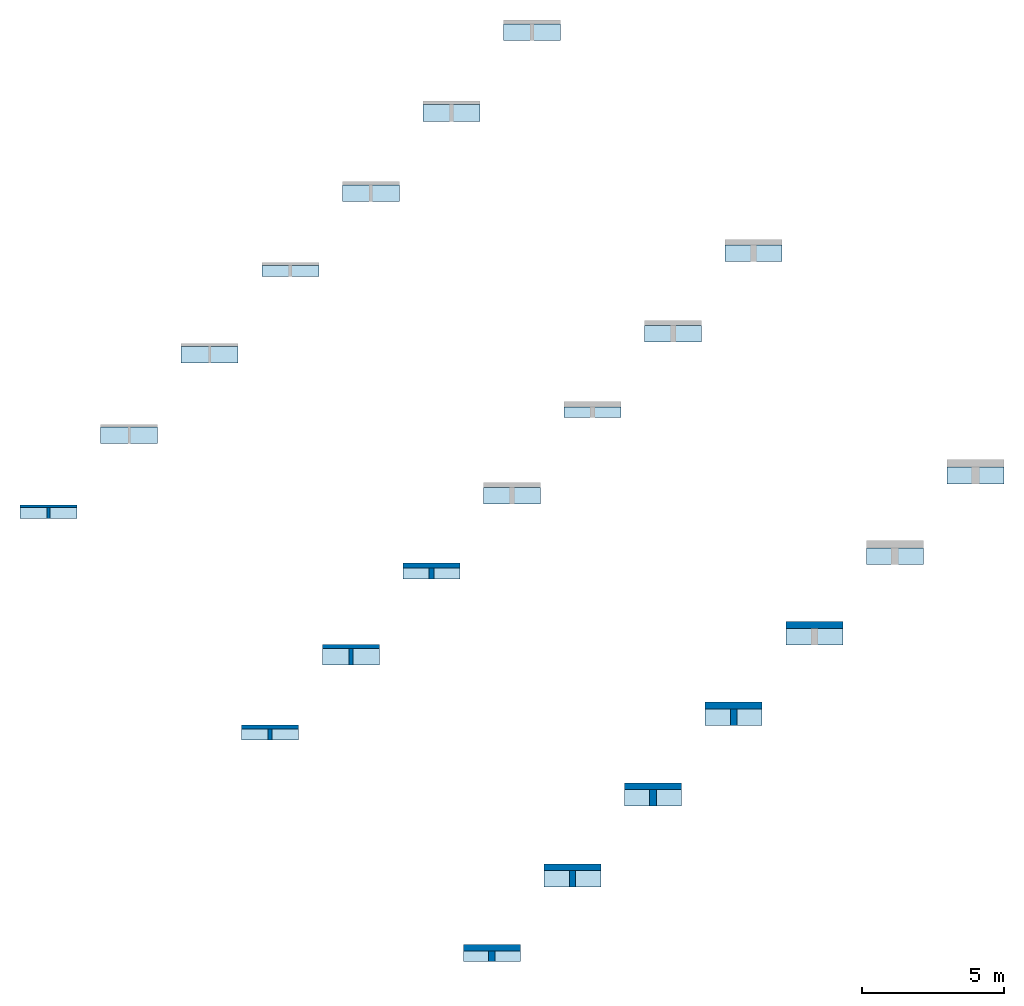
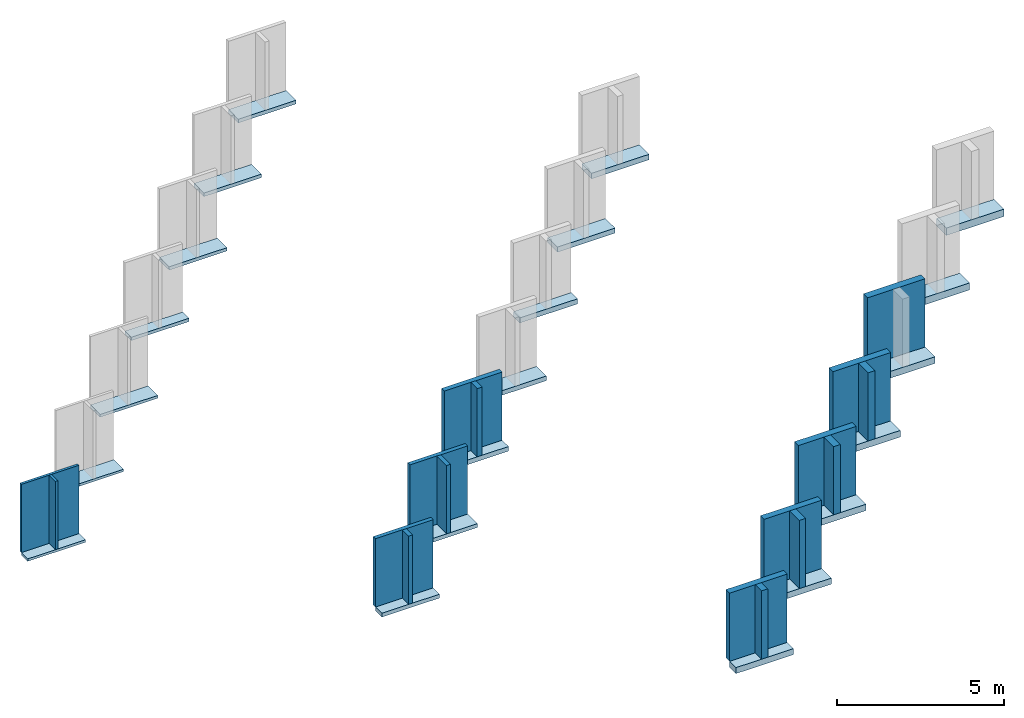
# One storey, part 1 of 2: 21 slabs, 17 walls.
"""IFC2X3 building model written with IfcOpenShell, lengths in millimetres."""

from ifc_helpers import new_model, entity, si_unit, converted_unit, derived_unit, direction, frame, frame_2d, origin, origin_2d_with_axis, place, context, subcontext, project, spatial, rectangle, extrude, material, layer, layer_set, layer_usage, type_object, element, save


model = new_model("IFC2X3")

# Units and contexts
model_context = context("Model", 3, precision=0.01, world=origin(), true_north=direction((6.12303176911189e-17, 1.0)))
context_of_model = context(None, 3, precision=0.01, world=origin(), true_north=direction((6.12303176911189e-17, 1.0)))
body_context = subcontext(model_context, "Body", "Model", "MODEL_VIEW")
ifc_project = project(units=[si_unit("LENGTHUNIT", "METRE", prefix="MILLI"), si_unit("AREAUNIT", "SQUARE_METRE"), si_unit("VOLUMEUNIT", "CUBIC_METRE"), converted_unit("PLANEANGLEUNIT", "DEGREE", entity("IfcRatioMeasure", 0.0174532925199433), si_unit("PLANEANGLEUNIT", "RADIAN"), dimensions=[0, 0, 0, 0, 0, 0, 0]), si_unit("MASSUNIT", "GRAM", prefix="KILO"), derived_unit("MASSDENSITYUNIT", [(si_unit("MASSUNIT", "GRAM", prefix="KILO"), 1), (si_unit("LENGTHUNIT", "METRE"), -3)]), derived_unit("MOMENTOFINERTIAUNIT", [(si_unit("LENGTHUNIT", "METRE"), 4)]), si_unit("TIMEUNIT", "SECOND"), si_unit("FREQUENCYUNIT", "HERTZ"), si_unit("THERMODYNAMICTEMPERATUREUNIT", "DEGREE_CELSIUS"), derived_unit("THERMALTRANSMITTANCEUNIT", [(si_unit("MASSUNIT", "GRAM", prefix="KILO"), 1), (si_unit("THERMODYNAMICTEMPERATUREUNIT", "KELVIN"), -1), (si_unit("TIMEUNIT", "SECOND"), -3)]), derived_unit("VOLUMETRICFLOWRATEUNIT", [(si_unit("LENGTHUNIT", "METRE"), 3), (si_unit("TIMEUNIT", "SECOND"), -1)]), si_unit("ELECTRICCURRENTUNIT", "AMPERE"), si_unit("ELECTRICVOLTAGEUNIT", "VOLT"), si_unit("POWERUNIT", "WATT"), si_unit("FORCEUNIT", "NEWTON", prefix="KILO"), si_unit("ILLUMINANCEUNIT", "LUX"), si_unit("LUMINOUSFLUXUNIT", "LUMEN"), si_unit("LUMINOUSINTENSITYUNIT", "CANDELA"), derived_unit("USERDEFINED", [(si_unit("MASSUNIT", "GRAM", prefix="KILO"), -1), (si_unit("LENGTHUNIT", "METRE"), -2), (si_unit("TIMEUNIT", "SECOND"), 3), (si_unit("LUMINOUSFLUXUNIT", "LUMEN"), 1)]), derived_unit("LINEARVELOCITYUNIT", [(si_unit("LENGTHUNIT", "METRE"), 1), (si_unit("TIMEUNIT", "SECOND"), -1)]), si_unit("PRESSUREUNIT", "PASCAL"), derived_unit("USERDEFINED", [(si_unit("LENGTHUNIT", "METRE"), -2), (si_unit("MASSUNIT", "GRAM", prefix="KILO"), 1), (si_unit("TIMEUNIT", "SECOND"), -2)]), derived_unit("LINEARFORCEUNIT", [(si_unit("MASSUNIT", "GRAM", prefix="KILO"), 1), (si_unit("LENGTHUNIT", "METRE"), 1), (si_unit("TIMEUNIT", "SECOND"), -2), (si_unit("LENGTHUNIT", "METRE"), -1)]), derived_unit("PLANARFORCEUNIT", [(si_unit("MASSUNIT", "GRAM", prefix="KILO"), 1), (si_unit("LENGTHUNIT", "METRE"), 1), (si_unit("TIMEUNIT", "SECOND"), -2), (si_unit("LENGTHUNIT", "METRE"), -2)])], contexts=[model_context, context_of_model])

# Site, building, storey
site_placement = place(None, origin())
site = spatial("IfcSite", under=ifc_project, at=site_placement, Name="Default", CompositionType="ELEMENT")
building_placement = place(site_placement, origin())
building = spatial("IfcBuilding", under=site, at=building_placement, CompositionType="ELEMENT")
storey_placement = place(building_placement, origin())
storey = spatial("IfcBuildingStorey", under=building, at=storey_placement, Name="Begane grond", CompositionType="ELEMENT", Elevation=0.0)

# Slabs
ifc_material = material(Name="Knauf Insulation_Ecose® glaswol_naturoll 035")
ifc_layer_1 = layer(ifc_material, 90.0)
ifc_layer_set_1 = layer_set([ifc_layer_1], Name="Floor:NLRS_23_FL_Naturoll 035_90x380x7600mm")
ifc_layer_usage_1 = layer_usage(ifc_layer_set_1, "AXIS3", "POSITIVE", 0.0)
slab_type_1 = type_object("IfcSlabType", Name="Floor:NLRS_23_FL_Naturoll 035_90x380x7600mm", PredefinedType="FLOOR", material=ifc_layer_set_1)
slab_1_placement = place(storey_placement, origin())
element("IfcSlab", 1, at=slab_1_placement, inside=storey, type_object=slab_type_1, material=ifc_layer_usage_1, Name="Floor:NLRS_23_FL_Naturoll 035_90x380x7600mm", ObjectType="Floor:NLRS_23_FL_Naturoll 035_90x380x7600mm", PredefinedType="FLOOR", context=body_context, shape_type="SweptSolid", body=[
    extrude(rectangle(XDim=379.999999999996, YDim=2000.0, at=frame_2d((-2.70006239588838e-13, 0.0), x_axis=(1.0, 0.0))), frame((-3546.98927921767, 4256.91437812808, 0.0), z_axis=(0.0, 0.0, -1.0), x_axis=(0.0, 1.0, 0.0)), (0.0, 0.0, 1.0), 90.0),
])
ifc_layer_2 = layer(ifc_material, 90.0)
ifc_layer_set_2 = layer_set([ifc_layer_2], Name="Floor:NLRS_23_FL_Naturoll 035_90x580x7600mm")
ifc_layer_usage_2 = layer_usage(ifc_layer_set_2, "AXIS3", "POSITIVE", 0.0)
slab_type_2 = type_object("IfcSlabType", Name="Floor:NLRS_23_FL_Naturoll 035_90x580x7600mm", PredefinedType="FLOOR", material=ifc_layer_set_2)
slab_2_placement = place(storey_placement, origin())
element("IfcSlab", 2, at=slab_2_placement, inside=storey, type_object=slab_type_2, material=ifc_layer_usage_2, Name="Floor:NLRS_23_FL_Naturoll 035_90x580x7600mm", ObjectType="Floor:NLRS_23_FL_Naturoll 035_90x580x7600mm", PredefinedType="FLOOR", context=body_context, shape_type="SweptSolid", body=[
    extrude(rectangle(XDim=579.999999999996, YDim=2000.0, at=frame_2d((-1.08002495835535e-12, 0.0), x_axis=(1.0, 0.0))), frame((-718.562154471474, 6985.34150287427, 0.0), z_axis=(0.0, 0.0, -1.0), x_axis=(0.0, 1.0, 0.0)), (0.0, 0.0, 1.0), 90.0),
])
ifc_layer_3 = layer(ifc_material, 100.0)
ifc_layer_set_3 = layer_set([ifc_layer_3], Name="Floor:NLRS_23_FL_Naturoll 035_100x580x7400mm")
ifc_layer_usage_3 = layer_usage(ifc_layer_set_3, "AXIS3", "POSITIVE", 0.0)
slab_type_3 = type_object("IfcSlabType", Name="Floor:NLRS_23_FL_Naturoll 035_100x580x7400mm", PredefinedType="FLOOR", material=ifc_layer_set_3)
slab_3_placement = place(storey_placement, origin())
element("IfcSlab", 3, at=slab_3_placement, inside=storey, type_object=slab_type_3, material=ifc_layer_usage_3, Name="Floor:NLRS_23_FL_Naturoll 035_100x580x7400mm", ObjectType="Floor:NLRS_23_FL_Naturoll 035_100x580x7400mm", PredefinedType="FLOOR", context=body_context, shape_type="SweptSolid", body=[
    extrude(rectangle(XDim=579.999999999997, YDim=2000.0, at=frame_2d((5.40012479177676e-13, 0.0), x_axis=(1.0, 0.0))), frame((2109.86497027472, 9813.76862762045, 0.0), z_axis=(0.0, 0.0, -1.0), x_axis=(0.0, 1.0, 0.0)), (0.0, 0.0, 1.0), 100.0),
])
ifc_layer_4 = layer(ifc_material, 120.0)
ifc_layer_set_4 = layer_set([ifc_layer_4], Name="Floor:NLRS_23_FL_Naturoll 035_120x380x6200mm")
ifc_layer_usage_4 = layer_usage(ifc_layer_set_4, "AXIS3", "POSITIVE", 0.0)
slab_type_4 = type_object("IfcSlabType", Name="Floor:NLRS_23_FL_Naturoll 035_120x380x6200mm", PredefinedType="FLOOR", material=ifc_layer_set_4)
slab_4_placement = place(storey_placement, origin())
element("IfcSlab", 4, at=slab_4_placement, inside=storey, type_object=slab_type_4, material=ifc_layer_usage_4, Name="Floor:NLRS_23_FL_Naturoll 035_120x380x6200mm", ObjectType="Floor:NLRS_23_FL_Naturoll 035_120x380x6200mm", PredefinedType="FLOOR", context=body_context, shape_type="SweptSolid", body=[
    extrude(rectangle(XDim=379.999999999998, YDim=2000.0, at=frame_2d((-1.08002495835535e-12, 0.0), x_axis=(1.0, 0.0))), frame((4938.29209502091, 12742.1957523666, 0.0), z_axis=(0.0, 0.0, -1.0), x_axis=(0.0, 1.0, 0.0)), (0.0, 0.0, 1.0), 120.0),
])
ifc_layer_5 = layer(ifc_material, 120.0)
ifc_layer_set_5 = layer_set([ifc_layer_5], Name="Floor:NLRS_23_FL_Naturoll 035_120x580x6200mm")
ifc_layer_usage_5 = layer_usage(ifc_layer_set_5, "AXIS3", "POSITIVE", 0.0)
slab_type_5 = type_object("IfcSlabType", Name="Floor:NLRS_23_FL_Naturoll 035_120x580x6200mm", PredefinedType="FLOOR", material=ifc_layer_set_5)
slab_5_placement = place(storey_placement, origin())
element("IfcSlab", 5, at=slab_5_placement, inside=storey, type_object=slab_type_5, material=ifc_layer_usage_5, Name="Floor:NLRS_23_FL_Naturoll 035_120x580x6200mm", ObjectType="Floor:NLRS_23_FL_Naturoll 035_120x580x6200mm", PredefinedType="FLOOR", context=body_context, shape_type="SweptSolid", body=[
    extrude(rectangle(XDim=579.999999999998, YDim=2000.0, at=frame_2d((0.0, 5.6843418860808e-13), x_axis=(1.0, 0.0))), frame((7766.7192197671, 15470.6228771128, 0.0), z_axis=(0.0, 0.0, -1.0), x_axis=(0.0, 1.0, 0.0)), (0.0, 0.0, 1.0), 120.0),
])
ifc_layer_6 = layer(ifc_material, 130.0)
ifc_layer_set_6 = layer_set([ifc_layer_6], Name="Floor:NLRS_23_FL_Naturoll 035_130x590x5500mm")
ifc_layer_usage_6 = layer_usage(ifc_layer_set_6, "AXIS3", "POSITIVE", 0.0)
slab_type_6 = type_object("IfcSlabType", Name="Floor:NLRS_23_FL_Naturoll 035_130x590x5500mm", PredefinedType="FLOOR", material=ifc_layer_set_6)
slab_6_placement = place(storey_placement, origin())
element("IfcSlab", 6, at=slab_6_placement, inside=storey, type_object=slab_type_6, material=ifc_layer_usage_6, Name="Floor:NLRS_23_FL_Naturoll 035_130x590x5500mm", ObjectType="Floor:NLRS_23_FL_Naturoll 035_130x590x5500mm", PredefinedType="FLOOR", context=body_context, shape_type="SweptSolid", body=[
    extrude(rectangle(XDim=589.999999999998, YDim=2000.0, at=frame_2d((1.08002495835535e-12, 0.0), x_axis=(1.0, 0.0))), frame((10595.1463445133, 18294.050001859, 0.0), z_axis=(0.0, 0.0, -1.0), x_axis=(0.0, 1.0, 0.0)), (0.0, 0.0, 1.0), 130.0),
])
ifc_layer_7 = layer(ifc_material, 140.0)
ifc_layer_set_7 = layer_set([ifc_layer_7], Name="Floor:NLRS_23_FL_Naturoll 035_140x380x5300mm")
ifc_layer_usage_7 = layer_usage(ifc_layer_set_7, "AXIS3", "POSITIVE", 0.0)
slab_type_7 = type_object("IfcSlabType", Name="Floor:NLRS_23_FL_Naturoll 035_140x380x5300mm", PredefinedType="FLOOR", material=ifc_layer_set_7)
slab_7_placement = place(storey_placement, origin())
element("IfcSlab", 7, at=slab_7_placement, inside=storey, type_object=slab_type_7, material=ifc_layer_usage_7, Name="Floor:NLRS_23_FL_Naturoll 035_140x380x5300mm", ObjectType="Floor:NLRS_23_FL_Naturoll 035_140x380x5300mm", PredefinedType="FLOOR", context=body_context, shape_type="SweptSolid", body=[
    extrude(rectangle(XDim=379.999999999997, YDim=2000.0, at=frame_2d((0.0, 2.8421709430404e-13), x_axis=(1.0, 0.0))), frame((4230.86513464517, -3521.58039411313, 0.0), z_axis=(0.0, 0.0, -1.0), x_axis=(0.0, 1.0, 0.0)), (0.0, 0.0, 1.0), 140.0),
])
ifc_layer_8 = layer(ifc_material, 140.0)
ifc_layer_set_8 = layer_set([ifc_layer_8], Name="Floor:NLRS_23_FL_Naturoll 035_140x580x5300mm")
ifc_layer_usage_8 = layer_usage(ifc_layer_set_8, "AXIS3", "POSITIVE", 0.0)
slab_type_8 = type_object("IfcSlabType", Name="Floor:NLRS_23_FL_Naturoll 035_140x580x5300mm", PredefinedType="FLOOR", material=ifc_layer_set_8)
slab_8_placement = place(storey_placement, origin())
element("IfcSlab", 8, at=slab_8_placement, inside=storey, type_object=slab_type_8, material=ifc_layer_usage_8, Name="Floor:NLRS_23_FL_Naturoll 035_140x580x5300mm", ObjectType="Floor:NLRS_23_FL_Naturoll 035_140x580x5300mm", PredefinedType="FLOOR", context=body_context, shape_type="SweptSolid", body=[
    extrude(rectangle(XDim=579.999999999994, YDim=2000.0, at=origin_2d_with_axis()), frame((7059.29225939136, -793.153269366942, 0.0), z_axis=(0.0, 0.0, -1.0), x_axis=(0.0, 1.0, 0.0)), (0.0, 0.0, 1.0), 140.0),
])
ifc_layer_9 = layer(ifc_material, 170.0)
ifc_layer_set_9 = layer_set([ifc_layer_9], Name="Floor:NLRS_23_FL_Naturoll 035_170x380x4350mm")
ifc_layer_usage_9 = layer_usage(ifc_layer_set_9, "AXIS3", "POSITIVE", 0.0)
slab_type_9 = type_object("IfcSlabType", Name="Floor:NLRS_23_FL_Naturoll 035_170x380x4350mm", PredefinedType="FLOOR", material=ifc_layer_set_9)
slab_9_placement = place(storey_placement, origin())
element("IfcSlab", 9, at=slab_9_placement, inside=storey, type_object=slab_type_9, material=ifc_layer_usage_9, Name="Floor:NLRS_23_FL_Naturoll 035_170x380x4350mm", ObjectType="Floor:NLRS_23_FL_Naturoll 035_170x380x4350mm", PredefinedType="FLOOR", context=body_context, shape_type="SweptSolid", body=[
    extrude(rectangle(XDim=379.999999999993, YDim=2000.0, at=frame_2d((0.0, -5.11590769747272e-13), x_axis=(1.0, 0.0))), frame((9887.71938413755, 2135.27385537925, 0.0), z_axis=(0.0, 0.0, -1.0), x_axis=(0.0, 1.0, 0.0)), (0.0, 0.0, 1.0), 170.0),
])
ifc_layer_10 = layer(ifc_material, 170.0)
ifc_layer_set_10 = layer_set([ifc_layer_10], Name="Floor:NLRS_23_FL_Naturoll 035_170x580x4350mm")
ifc_layer_usage_10 = layer_usage(ifc_layer_set_10, "AXIS3", "POSITIVE", 0.0)
slab_type_10 = type_object("IfcSlabType", Name="Floor:NLRS_23_FL_Naturoll 035_170x580x4350mm", PredefinedType="FLOOR", material=ifc_layer_set_10)
slab_10_placement = place(storey_placement, origin())
element("IfcSlab", 10, at=slab_10_placement, inside=storey, type_object=slab_type_10, material=ifc_layer_usage_10, Name="Floor:NLRS_23_FL_Naturoll 035_170x580x4350mm", ObjectType="Floor:NLRS_23_FL_Naturoll 035_170x580x4350mm", PredefinedType="FLOOR", context=body_context, shape_type="SweptSolid", body=[
    extrude(rectangle(XDim=579.999999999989, YDim=2000.0, at=frame_2d((0.0, 1.08002495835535e-12), x_axis=(1.0, 0.0))), frame((12716.1465088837, 4863.70098012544, 0.0), z_axis=(0.0, 0.0, -1.0), x_axis=(0.0, 1.0, 0.0)), (0.0, 0.0, 1.0), 170.0),
])
ifc_layer_11 = layer(ifc_material, 185.0)
ifc_layer_set_11 = layer_set([ifc_layer_11], Name="Floor:NLRS_23_FL_Naturoll 035_185x380x4000mm")
ifc_layer_usage_11 = layer_usage(ifc_layer_set_11, "AXIS3", "POSITIVE", 0.0)
slab_type_11 = type_object("IfcSlabType", Name="Floor:NLRS_23_FL_Naturoll 035_185x380x4000mm", PredefinedType="FLOOR", material=ifc_layer_set_11)
slab_11_placement = place(storey_placement, origin())
element("IfcSlab", 11, at=slab_11_placement, inside=storey, type_object=slab_type_11, material=ifc_layer_usage_11, Name="Floor:NLRS_23_FL_Naturoll 035_185x380x4000mm", ObjectType="Floor:NLRS_23_FL_Naturoll 035_185x380x4000mm", PredefinedType="FLOOR", context=body_context, shape_type="SweptSolid", body=[
    extrude(rectangle(XDim=379.999999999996, YDim=2000.0, at=frame_2d((0.0, 2.1600499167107e-12), x_axis=(1.0, 0.0))), frame((15544.5736336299, 7792.12810487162, 0.0), z_axis=(0.0, 0.0, -1.0), x_axis=(0.0, 1.0, 0.0)), (0.0, 0.0, 1.0), 185.0),
])
ifc_layer_12 = layer(ifc_material, 200.0)
ifc_layer_set_12 = layer_set([ifc_layer_12], Name="Floor:NLRS_23_FL_Naturoll 035_200x580x3700mm")
ifc_layer_usage_12 = layer_usage(ifc_layer_set_12, "AXIS3", "POSITIVE", 0.0)
slab_type_12 = type_object("IfcSlabType", Name="Floor:NLRS_23_FL_Naturoll 035_200x580x3700mm", PredefinedType="FLOOR", material=ifc_layer_set_12)
slab_12_placement = place(storey_placement, origin())
element("IfcSlab", 12, at=slab_12_placement, inside=storey, type_object=slab_type_12, material=ifc_layer_usage_12, Name="Floor:NLRS_23_FL_Naturoll 035_200x580x3700mm", ObjectType="Floor:NLRS_23_FL_Naturoll 035_200x580x3700mm", PredefinedType="FLOOR", context=body_context, shape_type="SweptSolid", body=[
    extrude(rectangle(XDim=580.0, YDim=2000.0, at=frame_2d((1.08002495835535e-12, -2.1600499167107e-12), x_axis=(1.0, 0.0))), frame((21189.3006541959, 13367.6741056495, 0.0), z_axis=(0.0, 0.0, -1.0), x_axis=(0.0, 1.0, 0.0)), (0.0, 0.0, 1.0), 200.0),
])
ifc_layer_13 = layer(ifc_material, 220.0)
ifc_layer_set_13 = layer_set([ifc_layer_13], Name="Floor:NLRS_23_FL_Naturoll 035_220x380x3400mm")
ifc_layer_usage_13 = layer_usage(ifc_layer_set_13, "AXIS3", "POSITIVE", 0.0)
slab_type_13 = type_object("IfcSlabType", Name="Floor:NLRS_23_FL_Naturoll 035_220x380x3400mm", PredefinedType="FLOOR", material=ifc_layer_set_13)
slab_13_placement = place(storey_placement, origin())
element("IfcSlab", 13, at=slab_13_placement, inside=storey, type_object=slab_type_13, material=ifc_layer_usage_13, Name="Floor:NLRS_23_FL_Naturoll 035_220x380x3400mm", ObjectType="Floor:NLRS_23_FL_Naturoll 035_220x380x3400mm", PredefinedType="FLOOR", context=body_context, shape_type="SweptSolid", body=[
    extrude(rectangle(XDim=379.999999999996, YDim=2000.0, at=origin_2d_with_axis()), frame((12009.0397276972, -11299.7549871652, 0.0), z_axis=(0.0, 0.0, -1.0), x_axis=(0.0, 1.0, 0.0)), (0.0, 0.0, 1.0), 220.0),
])
ifc_layer_14 = layer(ifc_material, 220.0)
ifc_layer_set_14 = layer_set([ifc_layer_14], Name="Floor:NLRS_23_FL_Naturoll 035_220x580x3400mm")
ifc_layer_usage_14 = layer_usage(ifc_layer_set_14, "AXIS3", "POSITIVE", 0.0)
slab_type_14 = type_object("IfcSlabType", Name="Floor:NLRS_23_FL_Naturoll 035_220x580x3400mm", PredefinedType="FLOOR", material=ifc_layer_set_14)
slab_14_placement = place(storey_placement, origin())
element("IfcSlab", 14, at=slab_14_placement, inside=storey, type_object=slab_type_14, material=ifc_layer_usage_14, Name="Floor:NLRS_23_FL_Naturoll 035_220x580x3400mm", ObjectType="Floor:NLRS_23_FL_Naturoll 035_220x580x3400mm", PredefinedType="FLOOR", context=body_context, shape_type="SweptSolid", body=[
    extrude(rectangle(XDim=579.999999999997, YDim=2000.0, at=frame_2d((-5.40012479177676e-13, 0.0), x_axis=(1.0, 0.0))), frame((14837.4668524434, -8571.32786241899, 0.0), z_axis=(0.0, 0.0, -1.0), x_axis=(0.0, 1.0, 0.0)), (0.0, 0.0, 1.0), 220.0),
])
ifc_layer_15 = layer(ifc_material, 235.0)
ifc_layer_set_15 = layer_set([ifc_layer_15], Name="Floor:NLRS_23_FL_Naturoll 035_235x580x3100mm")
ifc_layer_usage_15 = layer_usage(ifc_layer_set_15, "AXIS3", "POSITIVE", 0.0)
slab_type_15 = type_object("IfcSlabType", Name="Floor:NLRS_23_FL_Naturoll 035_235x580x3100mm", PredefinedType="FLOOR", material=ifc_layer_set_15)
slab_15_placement = place(storey_placement, origin())
element("IfcSlab", 15, at=slab_15_placement, inside=storey, type_object=slab_type_15, material=ifc_layer_usage_15, Name="Floor:NLRS_23_FL_Naturoll 035_235x580x3100mm", ObjectType="Floor:NLRS_23_FL_Naturoll 035_235x580x3100mm", PredefinedType="FLOOR", context=body_context, shape_type="SweptSolid", body=[
    extrude(rectangle(XDim=579.999999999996, YDim=2000.0, at=origin_2d_with_axis()), frame((17665.8939771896, -5742.9007376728, 0.0), z_axis=(0.0, 0.0, -1.0), x_axis=(0.0, 1.0, 0.0)), (0.0, 0.0, 1.0), 235.0),
])
ifc_layer_16 = layer(ifc_material, 240.0)
ifc_layer_set_16 = layer_set([ifc_layer_16], Name="Floor:NLRS_23_FL_Naturoll 035_240x580x3100mm")
ifc_layer_usage_16 = layer_usage(ifc_layer_set_16, "AXIS3", "POSITIVE", 0.0)
slab_type_16 = type_object("IfcSlabType", Name="Floor:NLRS_23_FL_Naturoll 035_240x580x3100mm", PredefinedType="FLOOR", material=ifc_layer_set_16)
slab_16_placement = place(storey_placement, origin())
element("IfcSlab", 16, at=slab_16_placement, inside=storey, type_object=slab_type_16, material=ifc_layer_usage_16, Name="Floor:NLRS_23_FL_Naturoll 035_240x580x3100mm", ObjectType="Floor:NLRS_23_FL_Naturoll 035_240x580x3100mm", PredefinedType="FLOOR", context=body_context, shape_type="SweptSolid", body=[
    extrude(rectangle(XDim=579.999999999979, YDim=2000.0, at=frame_2d((0.0, -3.24007487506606e-12), x_axis=(1.0, 0.0))), frame((20494.3211019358, -2914.4736129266, 0.0), z_axis=(0.0, 0.0, -1.0), x_axis=(0.0, 1.0, 0.0)), (0.0, 0.0, 1.0), 240.0),
])
ifc_layer_17 = layer(ifc_material, 270.0)
ifc_layer_set_17 = layer_set([ifc_layer_17], Name="Floor:NLRS_23_FL_Naturoll 035_270x590x2600mm")
ifc_layer_usage_17 = layer_usage(ifc_layer_set_17, "AXIS3", "POSITIVE", 0.0)
slab_type_17 = type_object("IfcSlabType", Name="Floor:NLRS_23_FL_Naturoll 035_270x590x2600mm", PredefinedType="FLOOR", material=ifc_layer_set_17)
slab_17_placement = place(storey_placement, origin())
element("IfcSlab", 17, at=slab_17_placement, inside=storey, type_object=slab_type_17, material=ifc_layer_usage_17, Name="Floor:NLRS_23_FL_Naturoll 035_270x590x2600mm", ObjectType="Floor:NLRS_23_FL_Naturoll 035_270x590x2600mm", PredefinedType="FLOOR", context=body_context, shape_type="SweptSolid", body=[
    extrude(rectangle(XDim=589.999999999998, YDim=2000.0, at=frame_2d((0.0, 2.1600499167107e-12), x_axis=(1.0, 0.0))), frame((28979.6024761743, 5565.80776131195, 0.0), z_axis=(0.0, 0.0, -1.0), x_axis=(0.0, 1.0, 0.0)), (0.0, 0.0, 1.0), 270.0),
])
ifc_layer_18 = layer(ifc_material, 185.0)
ifc_layer_set_18 = layer_set([ifc_layer_18], Name="Floor:NLRS_23_FL_Naturoll 035_185x580x4000mm")
ifc_layer_usage_18 = layer_usage(ifc_layer_set_18, "AXIS3", "POSITIVE", 0.0)
slab_type_18 = type_object("IfcSlabType", Name="Floor:NLRS_23_FL_Naturoll 035_185x580x4000mm", PredefinedType="FLOOR", material=ifc_layer_set_18)
slab_18_placement = place(storey_placement, origin())
element("IfcSlab", 18, at=slab_18_placement, inside=storey, type_object=slab_type_18, material=ifc_layer_usage_18, Name="Floor:NLRS_23_FL_Naturoll 035_185x580x4000mm", ObjectType="Floor:NLRS_23_FL_Naturoll 035_185x580x4000mm", PredefinedType="FLOOR", context=body_context, shape_type="SweptSolid", body=[
    extrude(rectangle(XDim=579.999999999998, YDim=2000.0, at=origin_2d_with_axis()), frame((18373.0007583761, 10535.5552296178, 0.0), z_axis=(0.0, 0.0, -1.0), x_axis=(0.0, 1.0, 0.0)), (0.0, 0.0, 1.0), 185.0),
])
ifc_layer_19 = layer(ifc_material, 135.0)
ifc_layer_set_19 = layer_set([ifc_layer_19], Name="Floor:NLRS_23_FL_Naturoll 035_135x590x5300mm")
ifc_layer_usage_19 = layer_usage(ifc_layer_set_19, "AXIS3", "POSITIVE", 0.0)
slab_type_19 = type_object("IfcSlabType", Name="Floor:NLRS_23_FL_Naturoll 035_135x590x5300mm", PredefinedType="FLOOR", material=ifc_layer_set_19)
slab_19_placement = place(storey_placement, origin())
element("IfcSlab", 19, at=slab_19_placement, inside=storey, type_object=slab_type_19, material=ifc_layer_usage_19, Name="Floor:NLRS_23_FL_Naturoll 035_135x590x5300mm", ObjectType="Floor:NLRS_23_FL_Naturoll 035_135x590x5300mm", PredefinedType="FLOOR", context=body_context, shape_type="SweptSolid", body=[
    extrude(rectangle(XDim=590.000000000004, YDim=2000.0, at=origin_2d_with_axis()), frame((13423.5734692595, 21122.4771266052, 0.0), z_axis=(0.0, 0.0, -1.0), x_axis=(0.0, 1.0, 0.0)), (0.0, 0.0, 1.0), 135.0),
])
ifc_layer_20 = layer(ifc_material, 260.0)
ifc_layer_set_20 = layer_set([ifc_layer_20], Name="Floor:NLRS_23_FL_Naturoll 035_260x590x2700mm")
ifc_layer_usage_20 = layer_usage(ifc_layer_set_20, "AXIS3", "POSITIVE", 0.0)
slab_type_20 = type_object("IfcSlabType", Name="Floor:NLRS_23_FL_Naturoll 035_260x590x2700mm", PredefinedType="FLOOR", material=ifc_layer_set_20)
slab_20_placement = place(storey_placement, origin())
element("IfcSlab", 20, at=slab_20_placement, inside=storey, type_object=slab_type_20, material=ifc_layer_usage_20, Name="Floor:NLRS_23_FL_Naturoll 035_260x590x2700mm", ObjectType="Floor:NLRS_23_FL_Naturoll 035_260x590x2700mm", PredefinedType="FLOOR", context=body_context, shape_type="SweptSolid", body=[
    extrude(rectangle(XDim=589.999999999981, YDim=2000.0, at=frame_2d((0.0, -2.1600499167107e-12), x_axis=(1.0, 0.0))), frame((26151.1753514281, 2737.38063656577, 0.0), z_axis=(0.0, 0.0, -1.0), x_axis=(0.0, 1.0, 0.0)), (0.0, 0.0, 1.0), 260.0),
])
ifc_layer_21 = layer(ifc_material, 245.0)
ifc_layer_set_21 = layer_set([ifc_layer_21], Name="Floor:NLRS_23_FL_Naturoll 035_245x590x2600mm")
ifc_layer_usage_21 = layer_usage(ifc_layer_set_21, "AXIS3", "POSITIVE", 0.0)
slab_type_21 = type_object("IfcSlabType", Name="Floor:NLRS_23_FL_Naturoll 035_245x590x2600mm", PredefinedType="FLOOR", material=ifc_layer_set_21)
slab_21_placement = place(storey_placement, origin())
element("IfcSlab", 21, at=slab_21_placement, inside=storey, type_object=slab_type_21, material=ifc_layer_usage_21, Name="Floor:NLRS_23_FL_Naturoll 035_245x590x2600mm", ObjectType="Floor:NLRS_23_FL_Naturoll 035_245x590x2600mm", PredefinedType="FLOOR", context=body_context, shape_type="SweptSolid", body=[
    extrude(rectangle(XDim=589.999999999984, YDim=2000.0, at=frame_2d((0.0, -2.1600499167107e-12), x_axis=(1.0, 0.0))), frame((23322.7482266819, -91.0464881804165, 0.0), z_axis=(0.0, 0.0, -1.0), x_axis=(0.0, 1.0, 0.0)), (0.0, 0.0, 1.0), 245.0),
])

# Walls
ifc_layer_22 = layer(ifc_material, 90.0)
ifc_layer_set_22 = layer_set([ifc_layer_22], Name="Basic Wall:NLRS_21_WA_Naturoll 035_90x380x7600mm")
ifc_layer_usage_22 = layer_usage(ifc_layer_set_22, "AXIS2", "NEGATIVE", 45.0)
wall_type_1 = type_object("IfcWallType", Name="Basic Wall:NLRS_21_WA_Naturoll 035_90x380x7600mm", PredefinedType="STANDARD", material=ifc_layer_set_22)
wall_1_placement = place(storey_placement, frame((-4546.98927921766, 4491.91437812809, 0.0)))
element("IfcWallStandardCase", 22, at=wall_1_placement, inside=storey, type_object=wall_type_1, material=ifc_layer_usage_22, Name="Basic Wall:NLRS_21_WA_Naturoll 035_90x380x7600mm", ObjectType="Basic Wall:NLRS_21_WA_Naturoll 035_90x380x7600mm", context=body_context, shape_type="SweptSolid", body=[
    extrude(rectangle(XDim=2000.0, YDim=90.0000000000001, at=frame_2d((1000.0, 0.0), x_axis=(-1.0, 0.0))), origin(), (0.0, 0.0, 1.0), 2500.0),
])
ifc_layer_usage_23 = layer_usage(ifc_layer_set_22, "AXIS2", "NEGATIVE", 45.0)
wall_2_placement = place(storey_placement, frame((-3546.98927921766, 4446.91437812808, 0.0), z_axis=(0.0, 0.0, 1.0), x_axis=(0.0, -1.0, 0.0)))
element("IfcWallStandardCase", 23, at=wall_2_placement, inside=storey, type_object=wall_type_1, material=ifc_layer_usage_23, Name="Basic Wall:NLRS_21_WA_Naturoll 035_90x380x7600mm", ObjectType="Basic Wall:NLRS_21_WA_Naturoll 035_90x380x7600mm", context=body_context, shape_type="SweptSolid", body=[
    extrude(rectangle(XDim=380.0, YDim=90.0000000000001, at=frame_2d((190.0, 3.90798504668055e-14), x_axis=(-1.0, 0.0))), origin(), (0.0, 0.0, 1.0), 2500.0),
])
ifc_layer_23 = layer(ifc_material, 140.0)
ifc_layer_set_23 = layer_set([ifc_layer_23], Name="Basic Wall:NLRS_21_WA_Naturoll 035_140x380x5300mm")
ifc_layer_usage_24 = layer_usage(ifc_layer_set_23, "AXIS2", "NEGATIVE", 70.0)
wall_type_2 = type_object("IfcWallType", Name="Basic Wall:NLRS_21_WA_Naturoll 035_140x380x5300mm", PredefinedType="STANDARD", material=ifc_layer_set_23)
wall_3_placement = place(storey_placement, frame((3230.86513464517, -3261.58039411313, 0.0)))
element("IfcWallStandardCase", 24, at=wall_3_placement, inside=storey, type_object=wall_type_2, material=ifc_layer_usage_24, Name="Basic Wall:NLRS_21_WA_Naturoll 035_140x380x5300mm", ObjectType="Basic Wall:NLRS_21_WA_Naturoll 035_140x380x5300mm", context=body_context, shape_type="SweptSolid", body=[
    extrude(rectangle(XDim=2000.0, YDim=140.0, at=frame_2d((1000.0, 0.0), x_axis=(-1.0, 0.0))), origin(), (0.0, 0.0, 1.0), 2500.0),
])
ifc_layer_usage_25 = layer_usage(ifc_layer_set_23, "AXIS2", "NEGATIVE", 70.0)
wall_4_placement = place(storey_placement, frame((4230.86513464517, -3331.58039411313, 0.0), z_axis=(0.0, 0.0, 1.0), x_axis=(0.0, -1.0, 0.0)))
element("IfcWallStandardCase", 25, at=wall_4_placement, inside=storey, type_object=wall_type_2, material=ifc_layer_usage_25, Name="Basic Wall:NLRS_21_WA_Naturoll 035_140x380x5300mm", ObjectType="Basic Wall:NLRS_21_WA_Naturoll 035_140x380x5300mm", context=body_context, shape_type="SweptSolid", body=[
    extrude(rectangle(XDim=380.0, YDim=140.0, at=frame_2d((190.0, 3.5527136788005e-14), x_axis=(-1.0, 0.0))), origin(), (0.0, 0.0, 1.0), 2500.0),
])
ifc_layer_24 = layer(ifc_material, 140.0)
ifc_layer_set_24 = layer_set([ifc_layer_24], Name="Basic Wall:NLRS_21_WA_Naturoll 035_140x580x5300mm")
ifc_layer_usage_26 = layer_usage(ifc_layer_set_24, "AXIS2", "NEGATIVE", 70.0)
wall_type_3 = type_object("IfcWallType", Name="Basic Wall:NLRS_21_WA_Naturoll 035_140x580x5300mm", PredefinedType="STANDARD", material=ifc_layer_set_24)
wall_5_placement = place(storey_placement, frame((6059.29225939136, -433.153269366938, 0.0)))
element("IfcWallStandardCase", 26, at=wall_5_placement, inside=storey, type_object=wall_type_3, material=ifc_layer_usage_26, Name="Basic Wall:NLRS_21_WA_Naturoll 035_140x580x5300mm", ObjectType="Basic Wall:NLRS_21_WA_Naturoll 035_140x580x5300mm", context=body_context, shape_type="SweptSolid", body=[
    extrude(rectangle(XDim=2000.0, YDim=140.0, at=frame_2d((1000.0, 0.0), x_axis=(-1.0, 0.0))), origin(), (0.0, 0.0, 1.0), 2500.0),
])
ifc_layer_usage_27 = layer_usage(ifc_layer_set_24, "AXIS2", "NEGATIVE", 70.0)
wall_6_placement = place(storey_placement, frame((7059.29225939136, -503.153269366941, 0.0), z_axis=(0.0, 0.0, 1.0), x_axis=(0.0, -1.0, 0.0)))
element("IfcWallStandardCase", 27, at=wall_6_placement, inside=storey, type_object=wall_type_3, material=ifc_layer_usage_27, Name="Basic Wall:NLRS_21_WA_Naturoll 035_140x580x5300mm", ObjectType="Basic Wall:NLRS_21_WA_Naturoll 035_140x580x5300mm", context=body_context, shape_type="SweptSolid", body=[
    extrude(rectangle(XDim=580.0, YDim=140.000000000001, at=frame_2d((290.0, -7.105427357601e-14), x_axis=(-1.0, 0.0))), origin(), (0.0, 0.0, 1.0), 2500.0),
])
ifc_layer_25 = layer(ifc_material, 170.0)
ifc_layer_set_25 = layer_set([ifc_layer_25], Name="Basic Wall:NLRS_21_WA_Naturoll 035_170x380x4350mm")
ifc_layer_usage_28 = layer_usage(ifc_layer_set_25, "AXIS2", "NEGATIVE", 85.0)
wall_type_4 = type_object("IfcWallType", Name="Basic Wall:NLRS_21_WA_Naturoll 035_170x380x4350mm", PredefinedType="STANDARD", material=ifc_layer_set_25)
wall_7_placement = place(storey_placement, frame((8887.71938413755, 2410.27385537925, 0.0)))
element("IfcWallStandardCase", 28, at=wall_7_placement, inside=storey, type_object=wall_type_4, material=ifc_layer_usage_28, Name="Basic Wall:NLRS_21_WA_Naturoll 035_170x380x4350mm", ObjectType="Basic Wall:NLRS_21_WA_Naturoll 035_170x380x4350mm", context=body_context, shape_type="SweptSolid", body=[
    extrude(rectangle(XDim=2000.0, YDim=170.0, at=frame_2d((1000.0, 1.35003119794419e-13), x_axis=(-1.0, 0.0))), origin(), (0.0, 0.0, 1.0), 2500.0),
])
ifc_layer_usage_29 = layer_usage(ifc_layer_set_25, "AXIS2", "NEGATIVE", 85.0)
wall_8_placement = place(storey_placement, frame((9887.71938413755, 2325.27385537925, 0.0), z_axis=(0.0, 0.0, 1.0), x_axis=(0.0, -1.0, 0.0)))
element("IfcWallStandardCase", 29, at=wall_8_placement, inside=storey, type_object=wall_type_4, material=ifc_layer_usage_29, Name="Basic Wall:NLRS_21_WA_Naturoll 035_170x380x4350mm", ObjectType="Basic Wall:NLRS_21_WA_Naturoll 035_170x380x4350mm", context=body_context, shape_type="SweptSolid", body=[
    extrude(rectangle(XDim=380.0, YDim=170.0, at=frame_2d((190.0, -7.8159700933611e-13), x_axis=(-1.0, 0.0))), origin(), (0.0, 0.0, 1.0), 2500.0),
])
ifc_layer_26 = layer(ifc_material, 220.0)
ifc_layer_set_26 = layer_set([ifc_layer_26], Name="Basic Wall:NLRS_21_WA_Naturoll 035_220x380x3400mm")
ifc_layer_usage_30 = layer_usage(ifc_layer_set_26, "AXIS2", "NEGATIVE", 110.0)
wall_type_5 = type_object("IfcWallType", Name="Basic Wall:NLRS_21_WA_Naturoll 035_220x380x3400mm", PredefinedType="STANDARD", material=ifc_layer_set_26)
wall_9_placement = place(storey_placement, frame((11009.0397276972, -10999.7549871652, 0.0)))
element("IfcWallStandardCase", 30, at=wall_9_placement, inside=storey, type_object=wall_type_5, material=ifc_layer_usage_30, Name="Basic Wall:NLRS_21_WA_Naturoll 035_220x380x3400mm", ObjectType="Basic Wall:NLRS_21_WA_Naturoll 035_220x380x3400mm", context=body_context, shape_type="SweptSolid", body=[
    extrude(rectangle(XDim=2000.0, YDim=220.000000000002, at=frame_2d((1000.0, 0.0), x_axis=(-1.0, 0.0))), origin(), (0.0, 0.0, 1.0), 2500.0),
])
ifc_layer_usage_31 = layer_usage(ifc_layer_set_26, "AXIS2", "NEGATIVE", 110.0)
wall_10_placement = place(storey_placement, frame((12009.0397276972, -11109.7549871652, 0.0), z_axis=(0.0, 0.0, 1.0), x_axis=(0.0, -1.0, 0.0)))
element("IfcWallStandardCase", 31, at=wall_10_placement, inside=storey, type_object=wall_type_5, material=ifc_layer_usage_31, Name="Basic Wall:NLRS_21_WA_Naturoll 035_220x380x3400mm", ObjectType="Basic Wall:NLRS_21_WA_Naturoll 035_220x380x3400mm", context=body_context, shape_type="SweptSolid", body=[
    extrude(rectangle(XDim=380.0, YDim=220.000000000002, at=frame_2d((190.0, -7.74491581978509e-13), x_axis=(-1.0, 0.0))), origin(), (0.0, 0.0, 1.0), 2500.0),
])
ifc_layer_27 = layer(ifc_material, 220.0)
ifc_layer_set_27 = layer_set([ifc_layer_27], Name="Basic Wall:NLRS_21_WA_Naturoll 035_220x580x3400mm")
ifc_layer_usage_32 = layer_usage(ifc_layer_set_27, "AXIS2", "NEGATIVE", 110.0)
wall_type_6 = type_object("IfcWallType", Name="Basic Wall:NLRS_21_WA_Naturoll 035_220x580x3400mm", PredefinedType="STANDARD", material=ifc_layer_set_27)
wall_11_placement = place(storey_placement, frame((13837.4668524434, -8171.32786241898, 0.0)))
element("IfcWallStandardCase", 32, at=wall_11_placement, inside=storey, type_object=wall_type_6, material=ifc_layer_usage_32, Name="Basic Wall:NLRS_21_WA_Naturoll 035_220x580x3400mm", ObjectType="Basic Wall:NLRS_21_WA_Naturoll 035_220x580x3400mm", context=body_context, shape_type="SweptSolid", body=[
    extrude(rectangle(XDim=2000.0, YDim=220.0, at=frame_2d((1000.0, 0.0), x_axis=(-1.0, 0.0))), origin(), (0.0, 0.0, 1.0), 2500.0),
])
ifc_layer_usage_33 = layer_usage(ifc_layer_set_27, "AXIS2", "NEGATIVE", 110.0)
wall_12_placement = place(storey_placement, frame((14837.4668524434, -8281.32786241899, 0.0), z_axis=(0.0, 0.0, 1.0), x_axis=(0.0, -1.0, 0.0)))
element("IfcWallStandardCase", 33, at=wall_12_placement, inside=storey, type_object=wall_type_6, material=ifc_layer_usage_33, Name="Basic Wall:NLRS_21_WA_Naturoll 035_220x580x3400mm", ObjectType="Basic Wall:NLRS_21_WA_Naturoll 035_220x580x3400mm", context=body_context, shape_type="SweptSolid", body=[
    extrude(rectangle(XDim=580.0, YDim=220.000000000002, at=frame_2d((290.0, -6.11066752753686e-13), x_axis=(-1.0, 0.0))), origin(), (0.0, 0.0, 1.0), 2500.0),
])
ifc_layer_28 = layer(ifc_material, 235.0)
ifc_layer_set_28 = layer_set([ifc_layer_28], Name="Basic Wall:NLRS_21_WA_Naturoll 035_235x580x3100mm")
ifc_layer_usage_34 = layer_usage(ifc_layer_set_28, "AXIS2", "NEGATIVE", 117.5)
wall_type_7 = type_object("IfcWallType", Name="Basic Wall:NLRS_21_WA_Naturoll 035_235x580x3100mm", PredefinedType="STANDARD", material=ifc_layer_set_28)
wall_13_placement = place(storey_placement, frame((16665.8939771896, -5335.40073767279, 0.0)))
element("IfcWallStandardCase", 34, at=wall_13_placement, inside=storey, type_object=wall_type_7, material=ifc_layer_usage_34, Name="Basic Wall:NLRS_21_WA_Naturoll 035_235x580x3100mm", ObjectType="Basic Wall:NLRS_21_WA_Naturoll 035_235x580x3100mm", context=body_context, shape_type="SweptSolid", body=[
    extrude(rectangle(XDim=2000.0, YDim=235.000000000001, at=frame_2d((1000.0, 0.0), x_axis=(-1.0, 0.0))), origin(), (0.0, 0.0, 1.0), 2500.0),
])
ifc_layer_usage_35 = layer_usage(ifc_layer_set_28, "AXIS2", "NEGATIVE", 117.5)
wall_14_placement = place(storey_placement, frame((17665.8939771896, -5452.9007376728, 0.0), z_axis=(0.0, 0.0, 1.0), x_axis=(0.0, -1.0, 0.0)))
element("IfcWallStandardCase", 35, at=wall_14_placement, inside=storey, type_object=wall_type_7, material=ifc_layer_usage_35, Name="Basic Wall:NLRS_21_WA_Naturoll 035_235x580x3100mm", ObjectType="Basic Wall:NLRS_21_WA_Naturoll 035_235x580x3100mm", context=body_context, shape_type="SweptSolid", body=[
    extrude(rectangle(XDim=580.0, YDim=234.999999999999, at=frame_2d((290.0, -6.11066752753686e-13), x_axis=(-1.0, 0.0))), origin(), (0.0, 0.0, 1.0), 2500.0),
])
ifc_layer_29 = layer(ifc_material, 240.0)
ifc_layer_set_29 = layer_set([ifc_layer_29], Name="Basic Wall:NLRS_21_WA_Naturoll 035_240x580x3100mm")
ifc_layer_usage_36 = layer_usage(ifc_layer_set_29, "AXIS2", "NEGATIVE", 120.0)
wall_type_8 = type_object("IfcWallType", Name="Basic Wall:NLRS_21_WA_Naturoll 035_240x580x3100mm", PredefinedType="STANDARD", material=ifc_layer_set_29)
wall_15_placement = place(storey_placement, frame((19494.3211019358, -2504.47361292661, 0.0)))
element("IfcWallStandardCase", 36, at=wall_15_placement, inside=storey, type_object=wall_type_8, material=ifc_layer_usage_36, Name="Basic Wall:NLRS_21_WA_Naturoll 035_240x580x3100mm", ObjectType="Basic Wall:NLRS_21_WA_Naturoll 035_240x580x3100mm", context=body_context, shape_type="SweptSolid", body=[
    extrude(rectangle(XDim=2000.0, YDim=240.0, at=frame_2d((999.999999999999, 1.35003119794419e-13), x_axis=(-1.0, 0.0))), origin(), (0.0, 0.0, 1.0), 2500.0),
])
ifc_layer_usage_37 = layer_usage(ifc_layer_set_29, "AXIS2", "NEGATIVE", 120.0)
wall_16_placement = place(storey_placement, frame((20494.3211019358, -2624.47361292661, 0.0), z_axis=(0.0, 0.0, 1.0), x_axis=(0.0, -1.0, 0.0)))
element("IfcWallStandardCase", 37, at=wall_16_placement, inside=storey, type_object=wall_type_8, material=ifc_layer_usage_37, Name="Basic Wall:NLRS_21_WA_Naturoll 035_240x580x3100mm", ObjectType="Basic Wall:NLRS_21_WA_Naturoll 035_240x580x3100mm", context=body_context, shape_type="SweptSolid", body=[
    extrude(rectangle(XDim=580.0, YDim=239.999999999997, at=frame_2d((290.0, 4.76063632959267e-13), x_axis=(-1.0, 0.0))), origin(), (0.0, 0.0, 1.0), 2500.0),
])
ifc_layer_30 = layer(ifc_material, 245.0)
ifc_layer_set_30 = layer_set([ifc_layer_30], Name="Basic Wall:NLRS_21_WA_Naturoll 035_245x590x2600mm")
ifc_layer_usage_38 = layer_usage(ifc_layer_set_30, "AXIS2", "NEGATIVE", 122.5)
wall_type_9 = type_object("IfcWallType", Name="Basic Wall:NLRS_21_WA_Naturoll 035_245x590x2600mm", PredefinedType="STANDARD", material=ifc_layer_set_30)
wall_17_placement = place(storey_placement, frame((22322.748226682, 326.453511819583, 0.0)))
element("IfcWallStandardCase", 38, at=wall_17_placement, inside=storey, type_object=wall_type_9, material=ifc_layer_usage_38, Name="Basic Wall:NLRS_21_WA_Naturoll 035_245x590x2600mm", ObjectType="Basic Wall:NLRS_21_WA_Naturoll 035_245x590x2600mm", context=body_context, shape_type="SweptSolid", body=[
    extrude(rectangle(XDim=2000.0, YDim=245.0, at=frame_2d((1000.0, 1.4210854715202e-14), x_axis=(-1.0, 0.0))), origin(), (0.0, 0.0, 1.0), 2500.0),
])

save(model, "model.ifc")
